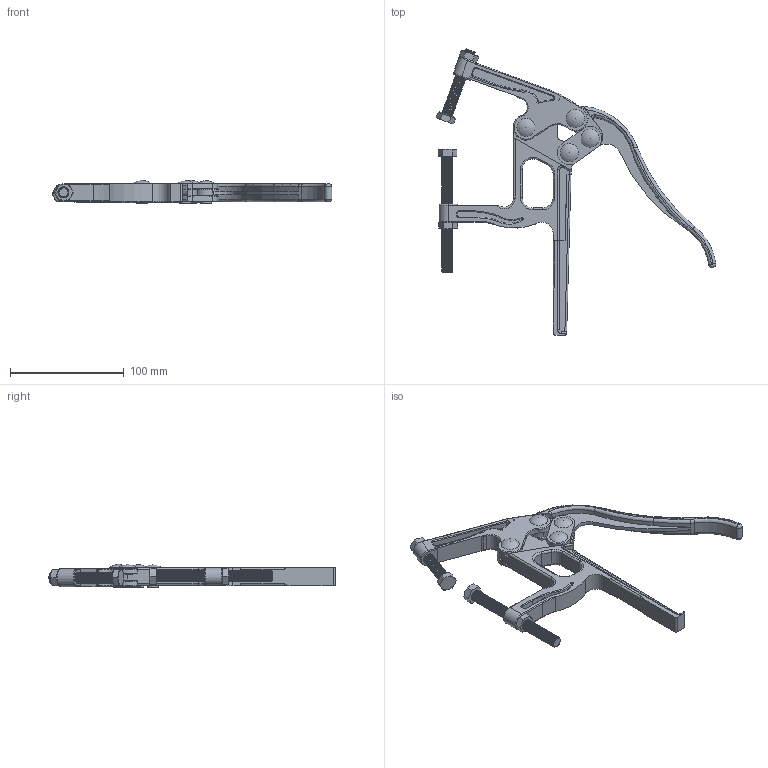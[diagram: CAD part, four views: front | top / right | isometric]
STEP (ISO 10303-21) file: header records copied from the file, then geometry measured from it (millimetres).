
FILE_DESCRIPTION(/* description */ (''),/* implementation_level */ '2;1');
FILE_NAME(/* name */ 'C:\Users\Nick\Desktop\C-1203 -2S\3D\C-1203-2S OPEN.step',/* time_stamp */ '2016-05-17T14:45:05-04:00',/* author */ ('Nick'),/* organization */ (''),/* preprocessor_version */ 'ST-DEVELOPER v16.1',/* originating_system */ 'AutoCAD Mechanical',/* authorisation */ '');
FILE_SCHEMA (('AUTOMOTIVE_DESIGN { 1 0 10303 214 3 1 1 }'));
Length unit declared in the file: inch
Products named in the file (1): Product
Bounding box: 245.47 x 251.05 x 20.57 mm (x, y, z)
Volume: 146538.2 mm3; surface area: 72657.2 mm2
Topology: 13 solids, 15 shells, 592 faces, 1391 edges, 838 vertices
Faces by surface type: cylinder 188, plane 164, cone 152, torus 76, bspline 8, sphere 4
Full cylindrical faces by diameter (mm): 8.136 x2, 9.474 x4, 9.485 x1, 9.525 x12, 14.214 x1
Entity records: 30167 total; most frequent: CARTESIAN_POINT 17053, DIRECTION 2898, ORIENTED_EDGE 2488, EDGE_CURVE 1242, AXIS2_PLACEMENT_3D 1213, VERTEX_POINT 827, EDGE_LOOP 773, CIRCLE 606
